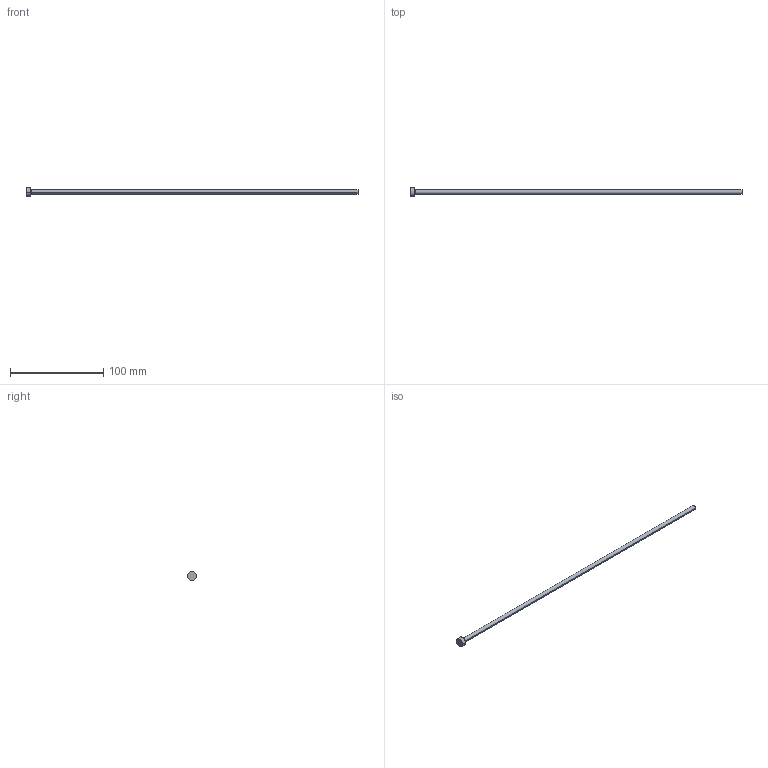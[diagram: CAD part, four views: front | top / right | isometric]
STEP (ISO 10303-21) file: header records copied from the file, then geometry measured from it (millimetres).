
FILE_DESCRIPTION (( 'STEP AP214' ), '1' );
FILE_NAME ('P13-14.STEP', '2020-03-11T18:20:12', ( '' ), ( '' ), 'SwSTEP 2.0', 'SolidWorks 2018', '' );
FILE_SCHEMA (( 'AUTOMOTIVE_DESIGN' ));
Length unit declared in the file: inch
Products named in the file (1): P13-14
Bounding box: 355.6 x 9.53 x 9.53 mm (x, y, z)
Volume: 6570.9 mm3; surface area: 5517.6 mm2
Topology: 1 solids, 1 shells, 13 faces, 24 edges, 14 vertices
Faces by surface type: cone 4, cylinder 4, plane 3, torus 2
Entity records: 366 total; most frequent: DIRECTION 68, CARTESIAN_POINT 52, ORIENTED_EDGE 48, AXIS2_PLACEMENT_3D 30, EDGE_CURVE 24, CIRCLE 16, EDGE_LOOP 14, VERTEX_POINT 14
